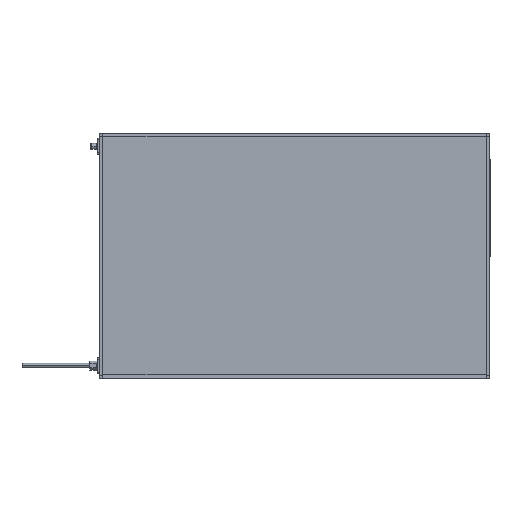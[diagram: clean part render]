
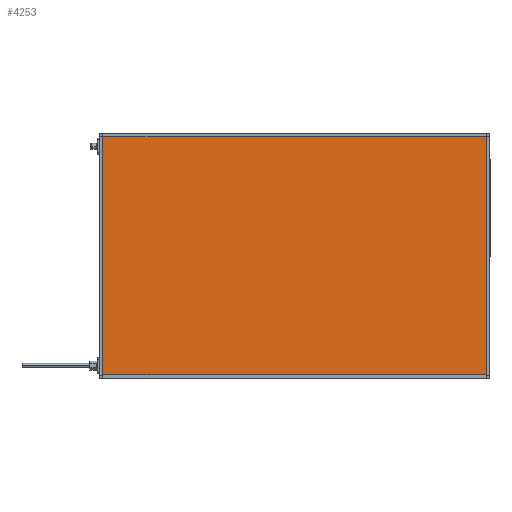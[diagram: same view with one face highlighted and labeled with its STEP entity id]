
A CAD part, top view. The second image highlights one B-rep face of the part: STEP entity #4253.
In plain terms, the highlighted planar face has unit normal (0, 0, 1).
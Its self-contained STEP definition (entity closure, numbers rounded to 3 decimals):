
#2321 = VERTEX_POINT ( 'NONE', #13061 ) ;
#2691 = AXIS2_PLACEMENT_3D ( 'NONE', #9103, #16042, #14585 ) ;
#4253 = ADVANCED_FACE ( 'NONE', ( #6088 ), #8921, .F. ) ;
#4883 = ORIENTED_EDGE ( 'NONE', *, *, #7383, .T. ) ;
#5034 = ORIENTED_EDGE ( 'NONE', *, *, #16485, .T. ) ;
#6059 = ORIENTED_EDGE ( 'NONE', *, *, #12181, .T. ) ;
#6083 = VECTOR ( 'NONE', #11043, 1000. ) ;
#6088 = FACE_OUTER_BOUND ( 'NONE', #14667, .T. ) ;
#7154 = CARTESIAN_POINT ( 'NONE',  ( 4., 496., 41.85 ) ) ;
#7383 = EDGE_CURVE ( 'NONE', #2321, #14427, #9132, .T. ) ;
#7999 = VERTEX_POINT ( 'NONE', #7154 ) ;
#8583 = LINE ( 'NONE', #15529, #16218 ) ;
#8921 = PLANE ( 'NONE',  #2691 ) ;
#9103 = CARTESIAN_POINT ( 'NONE',  ( 0., 0., 41.85 ) ) ;
#9132 = LINE ( 'NONE', #12980, #16456 ) ;
#9762 = CARTESIAN_POINT ( 'NONE',  ( 0., 4., 41.85 ) ) ;
#9773 = EDGE_CURVE ( 'NONE', #7999, #13052, #8583, .T. ) ;
#10221 = CARTESIAN_POINT ( 'NONE',  ( 4., 4., 41.85 ) ) ;
#11043 = DIRECTION ( 'NONE',  ( 1., 0., 0. ) ) ;
#11132 = VECTOR ( 'NONE', #17013, 1000. ) ;
#11494 = ORIENTED_EDGE ( 'NONE', *, *, #9773, .T. ) ;
#11790 = DIRECTION ( 'NONE',  ( 0., 1., 0. ) ) ;
#12181 = EDGE_CURVE ( 'NONE', #13052, #2321, #13799, .T. ) ;
#12917 = LINE ( 'NONE', #17102, #11132 ) ;
#12980 = CARTESIAN_POINT ( 'NONE',  ( 796., 0., 41.85 ) ) ;
#13052 = VERTEX_POINT ( 'NONE', #10221 ) ;
#13061 = CARTESIAN_POINT ( 'NONE',  ( 796., 4., 41.85 ) ) ;
#13799 = LINE ( 'NONE', #9762, #6083 ) ;
#13979 = DIRECTION ( 'NONE',  ( 0., -1., 0. ) ) ;
#14427 = VERTEX_POINT ( 'NONE', #15506 ) ;
#14585 = DIRECTION ( 'NONE',  ( -1., 0., 0. ) ) ;
#14667 = EDGE_LOOP ( 'NONE', ( #4883, #5034, #11494, #6059 ) ) ;
#15506 = CARTESIAN_POINT ( 'NONE',  ( 796., 496., 41.85 ) ) ;
#15529 = CARTESIAN_POINT ( 'NONE',  ( 4., 0., 41.85 ) ) ;
#16042 = DIRECTION ( 'NONE',  ( 0., 0., -1. ) ) ;
#16218 = VECTOR ( 'NONE', #13979, 1000. ) ;
#16456 = VECTOR ( 'NONE', #11790, 1000. ) ;
#16485 = EDGE_CURVE ( 'NONE', #14427, #7999, #12917, .T. ) ;
#17013 = DIRECTION ( 'NONE',  ( -1., 0., 0. ) ) ;
#17102 = CARTESIAN_POINT ( 'NONE',  ( 0., 496., 41.85 ) ) ;
